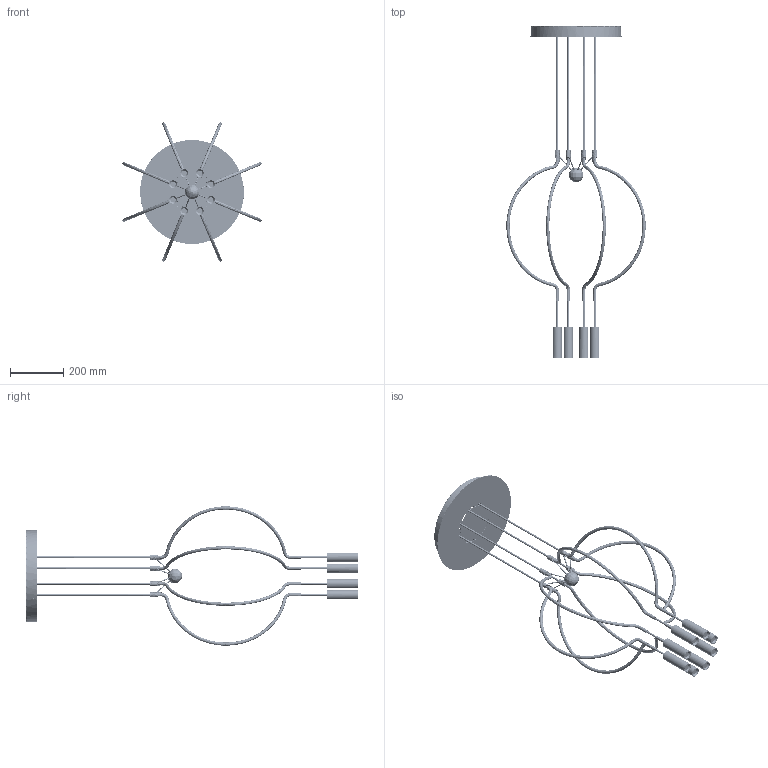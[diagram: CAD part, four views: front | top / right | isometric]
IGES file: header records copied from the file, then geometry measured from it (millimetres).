
Start section: SolidWorks IGES file using analytic representation for surfaces
Global section: file name: \\STORAGE\Tecnico Condiviso\1 FASCICOLI TECNICI\AXO DESIGN\AXO058-LIAISON\AXO01 Liaison - Fascicolo Tecnico 2018-11-20\AXO01.LS12 SO100 8 Luci\1.0A.AXO01.LS12.A1-3D\PSM Celada\SPLIAIP4XXXXLED-3D.IGS; native system: SolidWorks 2019; preprocessor: SolidWorks 2019; author: tecnico3; date: 191123.110630; units: millimetre
Bounding box: 522.87 x 1245.71 x 522.87 mm (x, y, z)
Volume: 1382284.6 mm3; surface area: 1451397.2 mm2
Topology: 101 solids, 101 shells, 1780 faces, 4292 edges, 2637 vertices
Faces by surface type: bspline 1780
